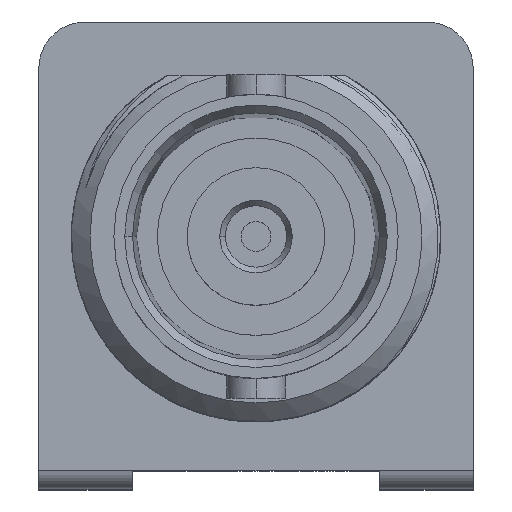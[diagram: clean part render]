
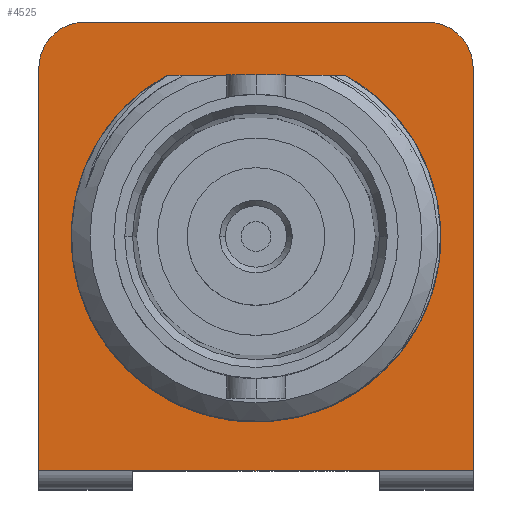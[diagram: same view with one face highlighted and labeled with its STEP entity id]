
A CAD part, top view. The second image highlights one B-rep face of the part: STEP entity #4525.
In plain terms, the highlighted planar face has unit normal (0, 0, 1).
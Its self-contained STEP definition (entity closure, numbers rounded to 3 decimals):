
#176=DIRECTION('',(1.,0.,0.));
#177=VECTOR('',#176,6.086);
#178=CARTESIAN_POINT('',(-3.043,5.486,-21.209));
#179=LINE('',#178,#177);
#512=CARTESIAN_POINT('',(5.804,5.74,-21.209));
#513=DIRECTION('',(0.,0.,-1.));
#514=DIRECTION('',(0.,1.,0.));
#515=AXIS2_PLACEMENT_3D('',#512,#513,#514);
#517=DIRECTION('',(0.,-1.,0.));
#518=VECTOR('',#517,13.665);
#519=CARTESIAN_POINT('',(7.379,5.74,-21.209));
#520=LINE('',#519,#518);
#521=DIRECTION('',(-1.,0.,0.));
#522=VECTOR('',#521,14.757);
#523=CARTESIAN_POINT('',(7.379,-7.925,-21.209));
#524=LINE('',#523,#522);
#525=DIRECTION('',(0.,1.,0.));
#526=VECTOR('',#525,13.665);
#527=CARTESIAN_POINT('',(-7.379,-7.925,-21.209));
#528=LINE('',#527,#526);
#529=CARTESIAN_POINT('',(-5.804,5.74,-21.209));
#530=DIRECTION('',(0.,0.,-1.));
#531=DIRECTION('',(-1.,0.,0.));
#532=AXIS2_PLACEMENT_3D('',#529,#530,#531);
#534=DIRECTION('',(1.,0.,0.));
#535=VECTOR('',#534,11.608);
#536=CARTESIAN_POINT('',(-5.804,7.315,-21.209));
#537=LINE('',#536,#535);
#2541=CARTESIAN_POINT('',(0.,0.,-21.209));
#2542=DIRECTION('',(0.,0.,1.));
#2543=DIRECTION('',(-0.485,0.874,0.));
#2544=AXIS2_PLACEMENT_3D('',#2541,#2542,#2543);
#3747=CARTESIAN_POINT('',(5.804,7.315,-21.209));
#3748=CARTESIAN_POINT('',(7.379,5.74,-21.209));
#3749=VERTEX_POINT('',#3747);
#3750=VERTEX_POINT('',#3748);
#3751=CARTESIAN_POINT('',(7.379,-7.925,-21.209));
#3752=VERTEX_POINT('',#3751);
#3753=CARTESIAN_POINT('',(-7.379,-7.925,-21.209));
#3754=VERTEX_POINT('',#3753);
#3755=CARTESIAN_POINT('',(-7.379,5.74,-21.209));
#3756=VERTEX_POINT('',#3755);
#3757=CARTESIAN_POINT('',(-5.804,7.315,-21.209));
#3758=VERTEX_POINT('',#3757);
#3767=CARTESIAN_POINT('',(-3.043,5.486,-21.209));
#3768=CARTESIAN_POINT('',(3.043,5.486,-21.209));
#3769=VERTEX_POINT('',#3767);
#3770=VERTEX_POINT('',#3768);
#4501=CARTESIAN_POINT('',(0.,0.,-21.209));
#4502=DIRECTION('',(0.,0.,-1.));
#4503=DIRECTION('',(-1.,0.,0.));
#4504=AXIS2_PLACEMENT_3D('',#4501,#4502,#4503);
#4505=PLANE('',#4504);
#4507=ORIENTED_EDGE('',*,*,#4506,.T.);
#4509=ORIENTED_EDGE('',*,*,#4508,.T.);
#4511=ORIENTED_EDGE('',*,*,#4510,.T.);
#4513=ORIENTED_EDGE('',*,*,#4512,.T.);
#4515=ORIENTED_EDGE('',*,*,#4514,.T.);
#4517=ORIENTED_EDGE('',*,*,#4516,.T.);
#4518=EDGE_LOOP('',(#4507,#4509,#4511,#4513,#4515,#4517));
#4519=FACE_OUTER_BOUND('',#4518,.F.);
#4521=ORIENTED_EDGE('',*,*,#4520,.T.);
#4522=ORIENTED_EDGE('',*,*,#4339,.F.);
#4523=EDGE_LOOP('',(#4521,#4522));
#4524=FACE_BOUND('',#4523,.F.);
#516=CIRCLE('',#515,1.575);
#533=CIRCLE('',#532,1.575);
#2545=CIRCLE('',#2544,6.274);
#4339=EDGE_CURVE('',#3769,#3770,#179,.T.);
#4506=EDGE_CURVE('',#3749,#3750,#516,.T.);
#4508=EDGE_CURVE('',#3750,#3752,#520,.T.);
#4510=EDGE_CURVE('',#3752,#3754,#524,.T.);
#4512=EDGE_CURVE('',#3754,#3756,#528,.T.);
#4514=EDGE_CURVE('',#3756,#3758,#533,.T.);
#4516=EDGE_CURVE('',#3758,#3749,#537,.T.);
#4520=EDGE_CURVE('',#3769,#3770,#2545,.T.);
#4525=ADVANCED_FACE('',(#4519,#4524),#4505,.F.);
